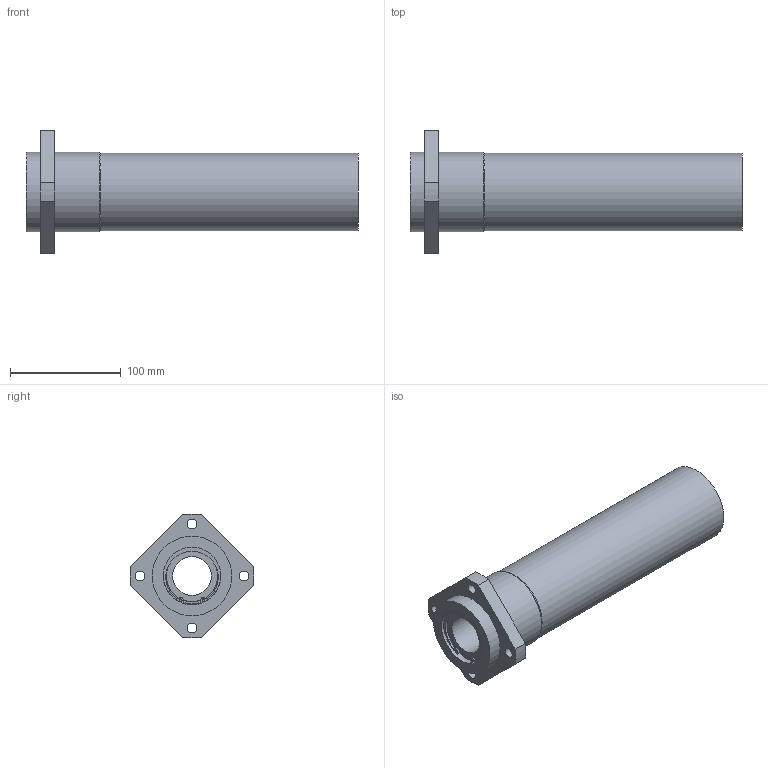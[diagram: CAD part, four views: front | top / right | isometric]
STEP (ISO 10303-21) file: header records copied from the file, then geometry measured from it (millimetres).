
FILE_DESCRIPTION((''),'2;1');
FILE_NAME('C:\Documents and Settings\土屋\My Documents\土屋移動用フォルダ\製品 (図面)\カタログ用3D\変換ファイル\OZAK_3D-CAD(STEP形式)\Part1.-Linear Bearings_ﾘﾆｱﾍﾞｱﾘﾝｸﾞ\09_Maintenance Free_ﾒｲﾝﾃﾅﾝｽﾌﾘｰ\L2017-09-22T14:09:00','2017-09-22T14:09:00',('y'),(''),'Autodesk Inventor 11','Autodesk Inventor 11','');
FILE_SCHEMA(('AUTOMOTIVE_DESIGN { 1 0 10303 214 1 1 1 1 }'));
Length unit declared in the file: millimetre
Products named in the file (1): LFWLB35BMF
Bounding box: 300 x 111.86 x 111.86 mm (x, y, z)
Volume: 914164.8 mm3; surface area: 126055.1 mm2
Topology: 1 solids, 7 shells, 97 faces, 245 edges, 152 vertices
Faces by surface type: bspline 34, cylinder 32, plane 28, torus 2, cone 1
Full cylindrical faces by diameter (mm): 2.5 x2, 9 x4, 35 x2, 46.4 x2, 49 x2, 52 x8, 70 x1, 72 x2
Entity records: 2957 total; most frequent: CARTESIAN_POINT 778, DIRECTION 468, ORIENTED_EDGE 384, AXIS2_PLACEMENT_3D 212, EDGE_CURVE 192, EDGE_LOOP 166, CIRCLE 148, VERTEX_POINT 136
